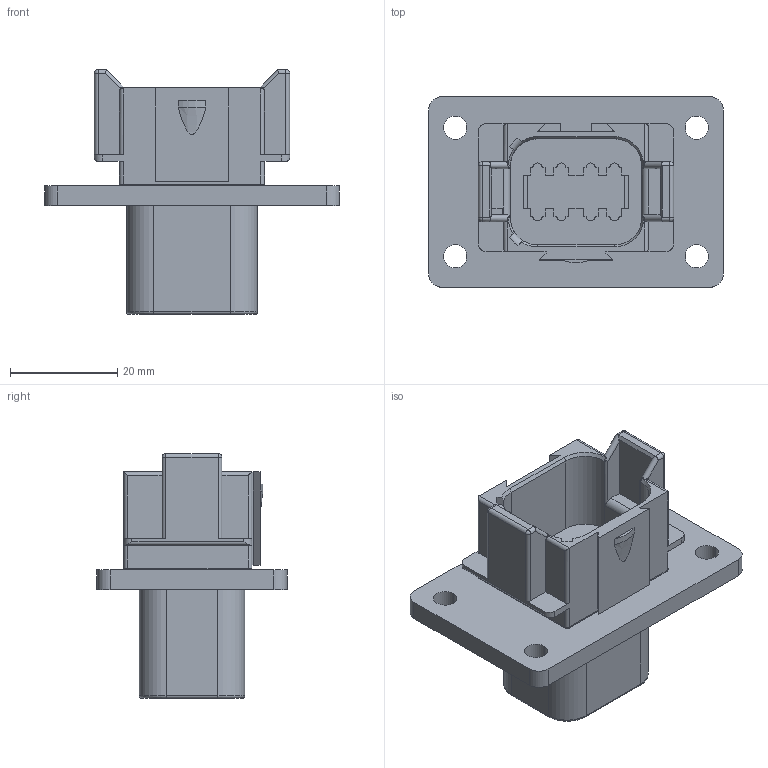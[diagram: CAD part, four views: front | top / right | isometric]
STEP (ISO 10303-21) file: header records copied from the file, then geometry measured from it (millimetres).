
FILE_DESCRIPTION((''),'2;1');
FILE_NAME('C-DT04-08PB-L012','2013-05-17T',('workeradm'),('Tyco Electronics Ltd.'),'PRO/ENGINEER BY PARAMETRIC TECHNOLOGY CORPORATION, 2011490','PRO/ENGINEER BY PARAMETRIC TECHNOLOGY CORPORATION, 2011490','');
FILE_SCHEMA(('AUTOMOTIVE_DESIGN { 1 0 10303 214 1 1 1 1 }'));
Length unit declared in the file: millimetre
Products named in the file (1): C-DT04-08PB-L012
Bounding box: 54.99 x 35.51 x 45.67 mm (x, y, z)
Volume: 21094.3 mm3; surface area: 10983.9 mm2
Topology: 1 solids, 1 shells, 301 faces, 780 edges, 502 vertices
Faces by surface type: plane 150, cylinder 114, torus 22, sphere 8, cone 7
Entity records: 12116 total; most frequent: CARTESIAN_POINT 1911, DIRECTION 1569, ORIENTED_EDGE 1560, PRESENTATION_STYLE_ASSIGNMENT 781, STYLED_ITEM 781, CURVE_STYLE 780, EDGE_CURVE 780, AXIS2_PLACEMENT_3D 546
